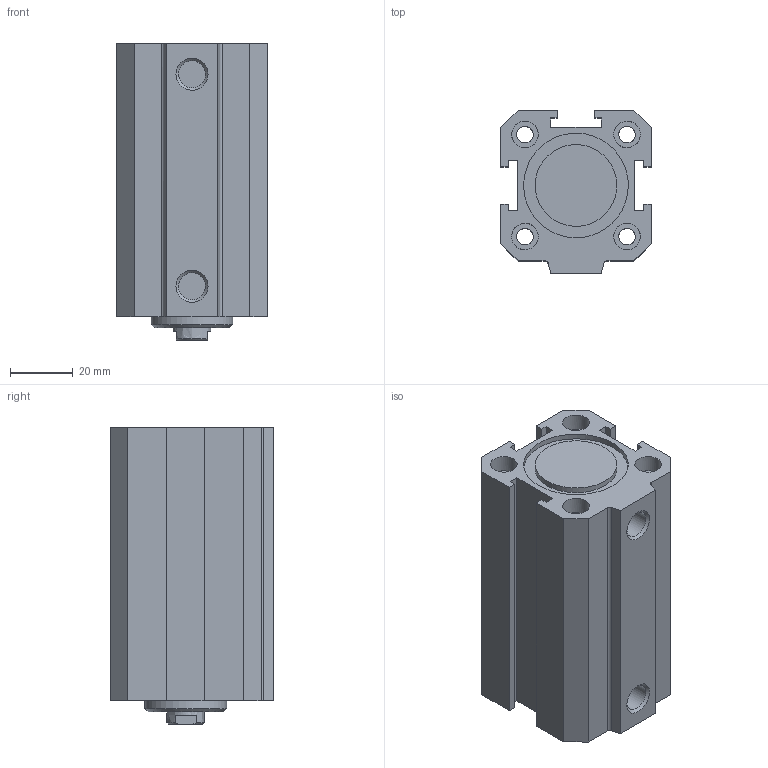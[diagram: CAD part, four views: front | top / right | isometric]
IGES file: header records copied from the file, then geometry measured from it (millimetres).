
Global section: file name: 1511_32_0050; native system: Autodesk Inventor 2014; preprocessor: unknown; author: A. Manieri; date: 20160824.113447; units: millimetre
Bounding box: 48 x 52 x 94.5 mm (x, y, z)
Volume: 136571.9 mm3; surface area: 46650.8 mm2
Topology: 2 solids, 2 shells, 93 faces, 237 edges, 166 vertices
Faces by surface type: bspline 93
